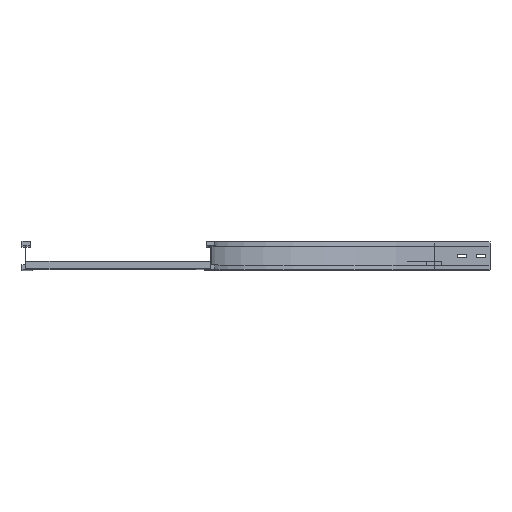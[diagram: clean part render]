
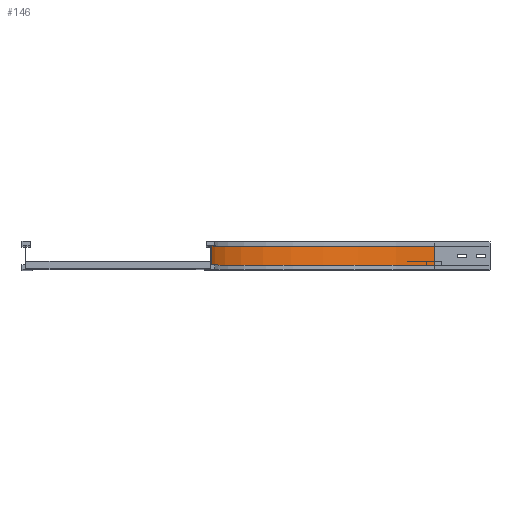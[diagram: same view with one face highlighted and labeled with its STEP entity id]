
A CAD part, top view. The second image highlights one B-rep face of the part: STEP entity #146.
In plain terms, the highlighted cylindrical face has radius 600 mm (diameter 1200 mm), a partial arc.
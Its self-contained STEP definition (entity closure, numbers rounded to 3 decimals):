
#146 = ADVANCED_FACE ( 'NONE', ( #609 ), #2274, .F. ) ;
#178 = CIRCLE ( 'NONE', #2054, 600. ) ;
#252 = DIRECTION ( 'NONE',  ( -1., 0., 0. ) ) ;
#302 = DIRECTION ( 'NONE',  ( 0., -1., 0. ) ) ;
#341 = CARTESIAN_POINT ( 'NONE',  ( 591., 63., -750. ) ) ;
#404 = VERTEX_POINT ( 'NONE', #3410 ) ;
#447 = AXIS2_PLACEMENT_3D ( 'NONE', #1167, #2803, #1668 ) ;
#609 = FACE_OUTER_BOUND ( 'NONE', #1291, .T. ) ;
#689 = CARTESIAN_POINT ( 'NONE',  ( -9., 63., -150. ) ) ;
#691 = CARTESIAN_POINT ( 'NONE',  ( 591., 12., -750. ) ) ;
#752 = VECTOR ( 'NONE', #2619, 1000. ) ;
#820 = CARTESIAN_POINT ( 'NONE',  ( 591., 12., -150. ) ) ;
#836 = DIRECTION ( 'NONE',  ( -1., 0., 0. ) ) ;
#840 = VECTOR ( 'NONE', #1548, 1000. ) ;
#952 = VERTEX_POINT ( 'NONE', #341 ) ;
#1167 = CARTESIAN_POINT ( 'NONE',  ( 591., 0., -150. ) ) ;
#1291 = EDGE_LOOP ( 'NONE', ( #1793, #1600, #3527, #3083 ) ) ;
#1301 = EDGE_CURVE ( 'NONE', #2586, #404, #2553, .T. ) ;
#1514 = EDGE_CURVE ( 'NONE', #2586, #1517, #2131, .T. ) ;
#1517 = VERTEX_POINT ( 'NONE', #689 ) ;
#1548 = DIRECTION ( 'NONE',  ( 0., 1., 0. ) ) ;
#1600 = ORIENTED_EDGE ( 'NONE', *, *, #1514, .F. ) ;
#1668 = DIRECTION ( 'NONE',  ( 0., 0., -1. ) ) ;
#1791 = AXIS2_PLACEMENT_3D ( 'NONE', #820, #1933, #836 ) ;
#1793 = ORIENTED_EDGE ( 'NONE', *, *, #2207, .F. ) ;
#1933 = DIRECTION ( 'NONE',  ( 0., -1., 0. ) ) ;
#2054 = AXIS2_PLACEMENT_3D ( 'NONE', #2251, #302, #252 ) ;
#2131 = LINE ( 'NONE', #2389, #840 ) ;
#2207 = EDGE_CURVE ( 'NONE', #1517, #952, #178, .T. ) ;
#2251 = CARTESIAN_POINT ( 'NONE',  ( 591., 63., -150. ) ) ;
#2274 = CYLINDRICAL_SURFACE ( 'NONE', #447, 600. ) ;
#2389 = CARTESIAN_POINT ( 'NONE',  ( -9., 12., -150. ) ) ;
#2514 = CARTESIAN_POINT ( 'NONE',  ( -9., 12., -150. ) ) ;
#2553 = CIRCLE ( 'NONE', #1791, 600. ) ;
#2586 = VERTEX_POINT ( 'NONE', #2514 ) ;
#2619 = DIRECTION ( 'NONE',  ( 0., 1., 0. ) ) ;
#2654 = LINE ( 'NONE', #691, #752 ) ;
#2803 = DIRECTION ( 'NONE',  ( 0., -1., 0. ) ) ;
#3083 = ORIENTED_EDGE ( 'NONE', *, *, #3126, .T. ) ;
#3126 = EDGE_CURVE ( 'NONE', #404, #952, #2654, .T. ) ;
#3410 = CARTESIAN_POINT ( 'NONE',  ( 591., 12., -750. ) ) ;
#3527 = ORIENTED_EDGE ( 'NONE', *, *, #1301, .T. ) ;
